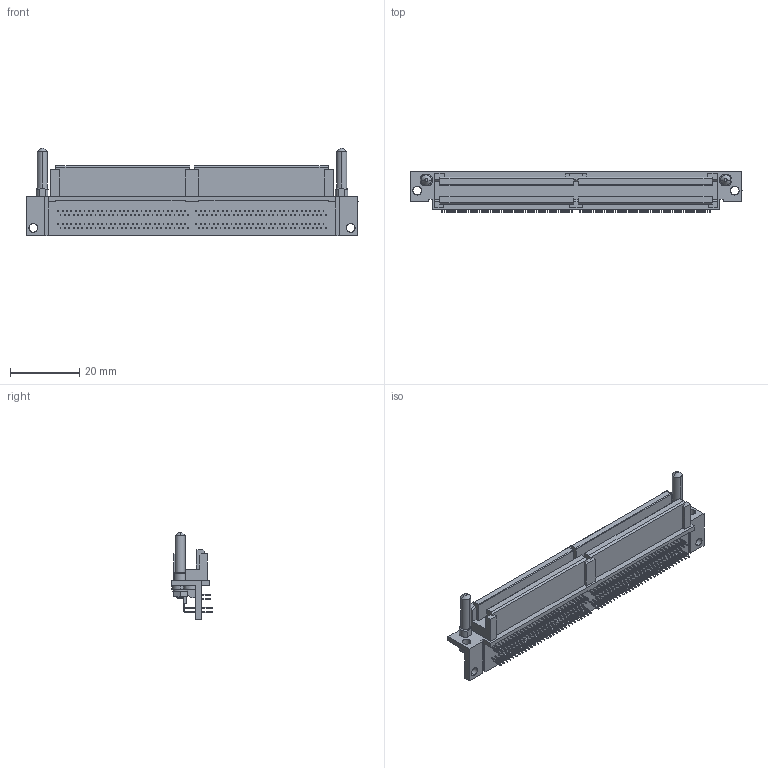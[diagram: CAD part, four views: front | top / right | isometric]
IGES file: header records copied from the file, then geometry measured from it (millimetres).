
Start section: SolidWorks IGES file using analytic representation for surfaces
Global section: file name: C:\3dwork\hoshino\MINIDOCK 30001,30002,30007,300009\MINIDOCK 30002\仛30002乮採弌梡乯\30002-240T-FC RA RECEP. IGES R14 ALL.IGS; native system: SolidWorks 2014; preprocessor: SolidWorks 2014; author: 3dcad; date: 161021.145850; units: millimetre
Bounding box: 96.15 x 11.86 x 25.3 mm (x, y, z)
Surface area: 9599.5 mm2 (no closed solid volume)
Topology: 0 solids, 0 shells, 2265 faces, 14815 edges, 14815 vertices
Faces by surface type: bspline 1977, revolution 288
